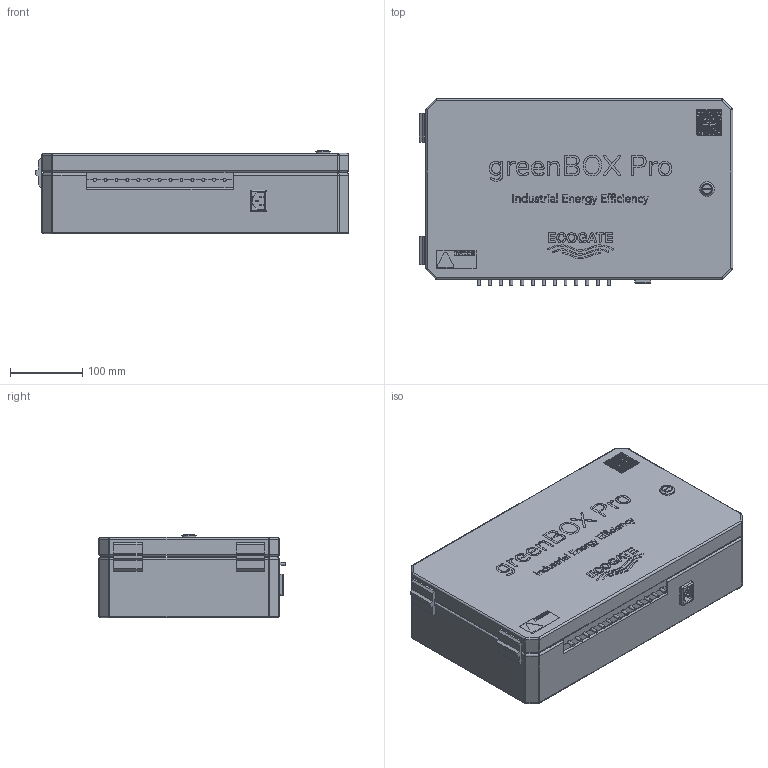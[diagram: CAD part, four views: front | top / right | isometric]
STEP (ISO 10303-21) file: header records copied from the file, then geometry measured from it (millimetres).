
FILE_DESCRIPTION( ('This file contains a STEP AP42 implementation' ,'as created by ZW3D STEP Interface translator.') ,'2;1' );
FILE_NAME( 'GB NEXT II rev.A maketa with out LCD.stp' ,'23 4 3.125952', (''), ('ZWCAD Software Co.'), 'Version 1.0', 'ZW3D to STEP translator', '' );
FILE_SCHEMA(('AUTOMOTIVE_DESIGN { 1 0 10303 214 1 1 1 1 }'));
Length unit declared in the file: millimetre
Products named in the file (1): 0
Bounding box: 434.3 x 258 x 116 mm (x, y, z)
Volume: 11653941 mm3; surface area: 574747.7 mm2
Topology: 1 solids, 1 shells, 2190 faces, 6962 edges, 7692 vertices
Faces by surface type: plane 1164, bspline 855, cylinder 129, sphere 32, cone 10
Full cylindrical faces by diameter (mm): 4 x13, 14.14 x1, 20.14 x1
Entity records: 105120 total; most frequent: CARTESIAN_POINT 50522, ORIENTED_EDGE 9266, DIRECTION 7890, EDGE_CURVE 4633, VECTOR 4602, LINE 4602, VERTEX_POINT 3044, EDGE_LOOP 2793
